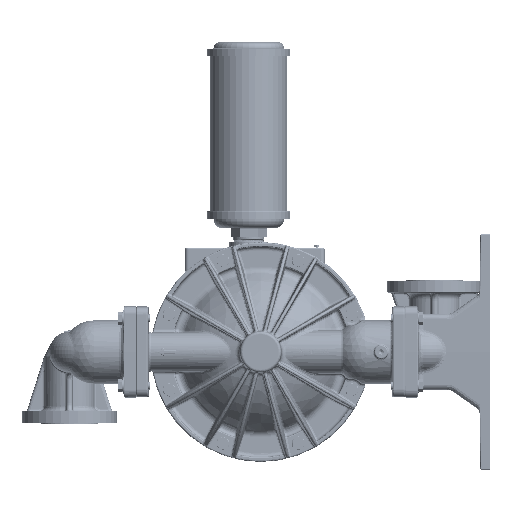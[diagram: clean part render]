
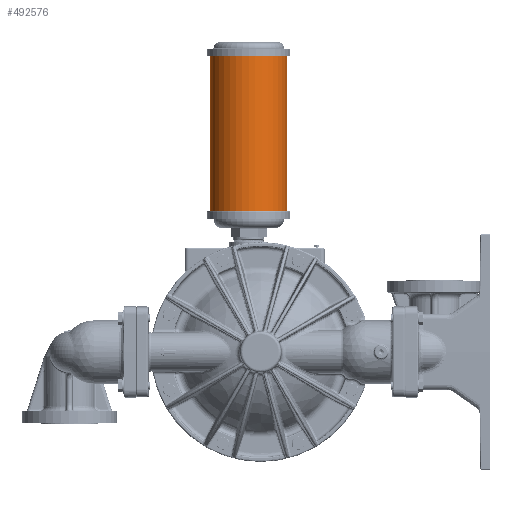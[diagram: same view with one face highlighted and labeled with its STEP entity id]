
A CAD part, left-side view. The second image highlights one B-rep face of the part: STEP entity #492576.
In plain terms, the highlighted cylindrical face has radius 61.722 mm (diameter 123.444 mm), a partial arc.
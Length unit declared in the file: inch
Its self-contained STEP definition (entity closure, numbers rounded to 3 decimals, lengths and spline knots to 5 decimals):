
#96496 = EDGE_LOOP ( 'NONE', ( #374004, #179855, #327928, #176958 ) ) ;
#148244 = CARTESIAN_POINT ( 'NONE',  ( 0., 3.18, 18.685 ) ) ;
#160262 = FACE_OUTER_BOUND ( 'NONE', #96496, .T. ) ;
#176958 = ORIENTED_EDGE ( 'NONE', *, *, #230781, .F. ) ;
#179855 = ORIENTED_EDGE ( 'NONE', *, *, #587906, .T. ) ;
#188630 = VERTEX_POINT ( 'NONE', #735258 ) ;
#204577 = VECTOR ( 'NONE', #543360, 39.37008 ) ;
#226595 = VERTEX_POINT ( 'NONE', #663335 ) ;
#230781 = EDGE_CURVE ( 'NONE', #574544, #466663, #774353, .T. ) ;
#234978 = CARTESIAN_POINT ( 'NONE',  ( 0., 0.75, 18.685 ) ) ;
#273656 = DIRECTION ( 'NONE',  ( 0., 0., -1. ) ) ;
#327928 = ORIENTED_EDGE ( 'NONE', *, *, #783723, .F. ) ;
#374004 = ORIENTED_EDGE ( 'NONE', *, *, #752698, .T. ) ;
#402550 = CARTESIAN_POINT ( 'NONE',  ( 0., 3.18, 8.905 ) ) ;
#459424 = DIRECTION ( 'NONE',  ( 0., 0., 1. ) ) ;
#460897 = VECTOR ( 'NONE', #523757, 39.37008 ) ;
#466663 = VERTEX_POINT ( 'NONE', #148244 ) ;
#471470 = CYLINDRICAL_SURFACE ( 'NONE', #542272, 2.43 ) ;
#492576 = ADVANCED_FACE ( 'NONE', ( #160262 ), #471470, .T. ) ;
#516064 = DIRECTION ( 'NONE',  ( 0., 1., 0. ) ) ;
#523757 = DIRECTION ( 'NONE',  ( 0., 0., 1. ) ) ;
#542272 = AXIS2_PLACEMENT_3D ( 'NONE', #641434, #273656, #766720 ) ;
#543360 = DIRECTION ( 'NONE',  ( 0., 0., 1. ) ) ;
#555287 = LINE ( 'NONE', #664666, #204577 ) ;
#574544 = VERTEX_POINT ( 'NONE', #583468 ) ;
#583468 = CARTESIAN_POINT ( 'NONE',  ( 0., 3.18, 8.905 ) ) ;
#587906 = EDGE_CURVE ( 'NONE', #188630, #226595, #555287, .T. ) ;
#604137 = CIRCLE ( 'NONE', #785388, 2.43 ) ;
#617795 = CIRCLE ( 'NONE', #721144, 2.43 ) ;
#641434 = CARTESIAN_POINT ( 'NONE',  ( 0., 0.75, 20.1725 ) ) ;
#659478 = DIRECTION ( 'NONE',  ( 0., 0., 1. ) ) ;
#663335 = CARTESIAN_POINT ( 'NONE',  ( 0., -1.68, 18.685 ) ) ;
#664666 = CARTESIAN_POINT ( 'NONE',  ( 0., -1.68, 8.905 ) ) ;
#698035 = CARTESIAN_POINT ( 'NONE',  ( 0., 0.75, 8.905 ) ) ;
#721144 = AXIS2_PLACEMENT_3D ( 'NONE', #698035, #459424, #516064 ) ;
#724104 = DIRECTION ( 'NONE',  ( 0., 1., 0. ) ) ;
#735258 = CARTESIAN_POINT ( 'NONE',  ( 0., -1.68, 8.905 ) ) ;
#752698 = EDGE_CURVE ( 'NONE', #574544, #188630, #617795, .T. ) ;
#766720 = DIRECTION ( 'NONE',  ( 0., -1., 0. ) ) ;
#774353 = LINE ( 'NONE', #402550, #460897 ) ;
#783723 = EDGE_CURVE ( 'NONE', #466663, #226595, #604137, .T. ) ;
#785388 = AXIS2_PLACEMENT_3D ( 'NONE', #234978, #659478, #724104 ) ;
